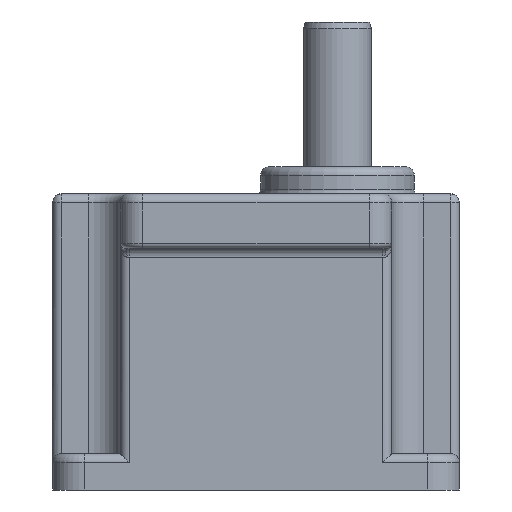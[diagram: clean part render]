
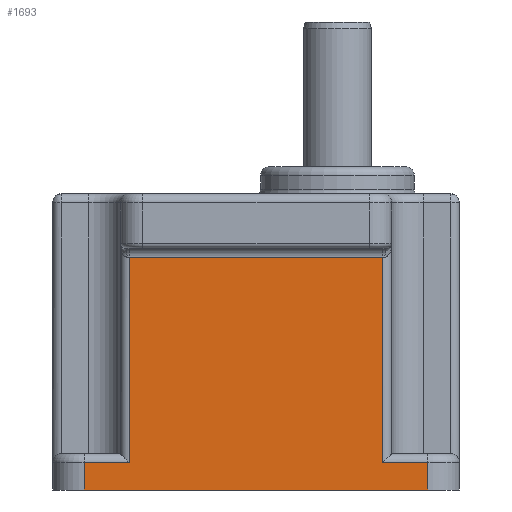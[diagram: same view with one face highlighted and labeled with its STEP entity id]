
A CAD part, left-side view. The second image highlights one B-rep face of the part: STEP entity #1693.
In plain terms, the highlighted planar face has unit normal (-1, 0, 0).
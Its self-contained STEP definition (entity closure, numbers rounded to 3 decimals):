
#1436=CARTESIAN_POINT('',(0.0,73.0,51.5));
#1437=VERTEX_POINT('',#1436);
#1462=CARTESIAN_POINT('',(0.0,17.0,51.5));
#1463=VERTEX_POINT('',#1462);
#1473=CARTESIAN_POINT('',(0.0,73.0,51.5));
#1474=DIRECTION('',(0.0,-1.0,0.0));
#1475=VECTOR('',#1474,56.0);
#1476=LINE('',#1473,#1475);
#1477=EDGE_CURVE('',#1437,#1463,#1476,.T.);
#1612=CARTESIAN_POINT('',(0.0,17.0,6.));
#1613=VERTEX_POINT('',#1612);
#1614=CARTESIAN_POINT('',(0.0,17.0,6.));
#1615=DIRECTION('',(0.0,0.0,1.0));
#1616=VECTOR('',#1615,45.5);
#1617=LINE('',#1614,#1616);
#1618=EDGE_CURVE('',#1613,#1463,#1617,.T.);
#1638=CARTESIAN_POINT('',(0.0,0.0,0.0));
#1639=DIRECTION('',(-1.0,0.0,0.0));
#1640=DIRECTION('',(0.0,0.0,1.0));
#1641=AXIS2_PLACEMENT_3D('',#1638,#1639,#1640);
#1642=PLANE('',#1641);
#1643=ORIENTED_EDGE('',*,*,#1477,.F.);
#1644=CARTESIAN_POINT('',(0.0,73.0,6.));
#1645=VERTEX_POINT('',#1644);
#1646=CARTESIAN_POINT('',(0.0,73.0,6.));
#1647=DIRECTION('',(0.0,0.0,1.0));
#1648=VECTOR('',#1647,45.5);
#1649=LINE('',#1646,#1648);
#1650=EDGE_CURVE('',#1645,#1437,#1649,.T.);
#1651=ORIENTED_EDGE('',*,*,#1650,.F.);
#1652=CARTESIAN_POINT('',(0.0,83.0,6.));
#1653=VERTEX_POINT('',#1652);
#1654=CARTESIAN_POINT('',(0.0,83.0,6.));
#1655=DIRECTION('',(0.0,-1.0,0.0));
#1656=VECTOR('',#1655,10.0);
#1657=LINE('',#1654,#1656);
#1658=EDGE_CURVE('',#1653,#1645,#1657,.T.);
#1659=ORIENTED_EDGE('',*,*,#1658,.F.);
#1660=CARTESIAN_POINT('',(0.0,83.0,0.0));
#1661=VERTEX_POINT('',#1660);
#1662=CARTESIAN_POINT('',(0.0,83.0,0.0));
#1663=DIRECTION('',(0.0,0.0,1.0));
#1664=VECTOR('',#1663,6.);
#1665=LINE('',#1662,#1664);
#1666=EDGE_CURVE('',#1661,#1653,#1665,.T.);
#1667=ORIENTED_EDGE('',*,*,#1666,.F.);
#1668=CARTESIAN_POINT('',(0.0,7.,0.0));
#1669=VERTEX_POINT('',#1668);
#1670=CARTESIAN_POINT('',(0.0,83.0,0.0));
#1671=DIRECTION('',(0.0,-1.0,0.0));
#1672=VECTOR('',#1671,76.0);
#1673=LINE('',#1670,#1672);
#1674=EDGE_CURVE('',#1661,#1669,#1673,.T.);
#1675=ORIENTED_EDGE('',*,*,#1674,.T.);
#1676=CARTESIAN_POINT('',(0.0,7.,6.));
#1677=VERTEX_POINT('',#1676);
#1678=CARTESIAN_POINT('',(0.0,7.,6.));
#1679=DIRECTION('',(0.0,0.0,-1.0));
#1680=VECTOR('',#1679,6.);
#1681=LINE('',#1678,#1680);
#1682=EDGE_CURVE('',#1677,#1669,#1681,.T.);
#1683=ORIENTED_EDGE('',*,*,#1682,.F.);
#1684=CARTESIAN_POINT('',(0.0,17.0,6.));
#1685=DIRECTION('',(0.0,-1.0,0.0));
#1686=VECTOR('',#1685,10.);
#1687=LINE('',#1684,#1686);
#1688=EDGE_CURVE('',#1613,#1677,#1687,.T.);
#1689=ORIENTED_EDGE('',*,*,#1688,.F.);
#1690=ORIENTED_EDGE('',*,*,#1618,.T.);
#1691=EDGE_LOOP('',(#1643,#1651,#1659,#1667,#1675,#1683,#1689,#1690));
#1692=FACE_OUTER_BOUND('',#1691,.T.);
#1693=ADVANCED_FACE('',(#1692),#1642,.T.);
